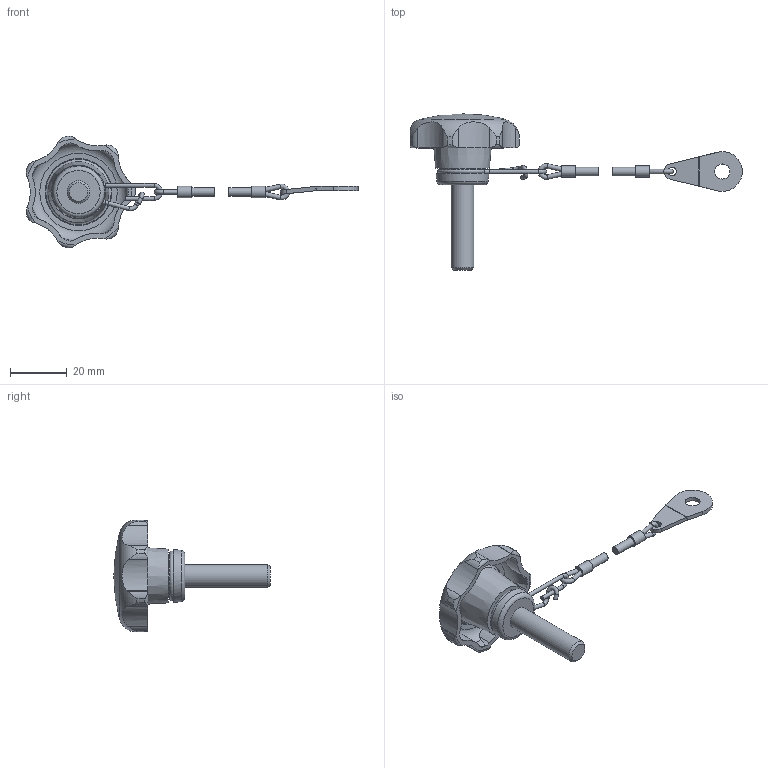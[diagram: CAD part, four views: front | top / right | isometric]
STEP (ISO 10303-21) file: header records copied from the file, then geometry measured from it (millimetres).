
FILE_DESCRIPTION( ( 'STEP AP203' ), '1' );
FILE_NAME( 'C:/Temp/Ganter_Step_05_03_2020/data/2_2/gn_6336_13/gn_6336_13_2/Star knob GN 6336.13-40-M8-30-H.stp', '2020-03-05T12:11:41', ( 'License CC BY-ND 4.0' ), ( 'CADENAS' ), ' ', 'PARTsolutions', ' ' );
FILE_SCHEMA( ( 'CONFIG_CONTROL_DESIGN' ) );
Length unit declared in the file: millimetre
Products named in the file (3): Star knob GN 6336.13-40-M8-30-H; _Star knob GN 6336.13-40-M8-30-H 6; _Star knob GN 111.2-200-14 h2
Assembly tree (2 placements, depth 2):
  Star knob GN 6336.13-40-M8-30-H
    _Star knob GN 6336.13-40-M8-30-H 6
    _Star knob GN 111.2-200-14 h2
Bounding box: 116.85 x 55 x 39.31 mm (x, y, z)
Volume: 13407 mm3; surface area: 7422 mm2
Topology: 2 solids, 2 shells, 154 faces, 422 edges, 274 vertices
Faces by surface type: cylinder 87, plane 35, torus 20, cone 11, sphere 1
Full cylindrical faces by diameter (mm): 1.4 x5, 1.6 x4, 3 x3, 4 x2, 5.3 x1, 8 x1, 14.7 x1
Entity records: 5502 total; most frequent: CARTESIAN_POINT 1785, ORIENTED_EDGE 738, DIRECTION 722, EDGE_CURVE 369, AXIS2_PLACEMENT_3D 302, VERTEX_POINT 263, EDGE_LOOP 205, FACE_OUTER_BOUND 183
